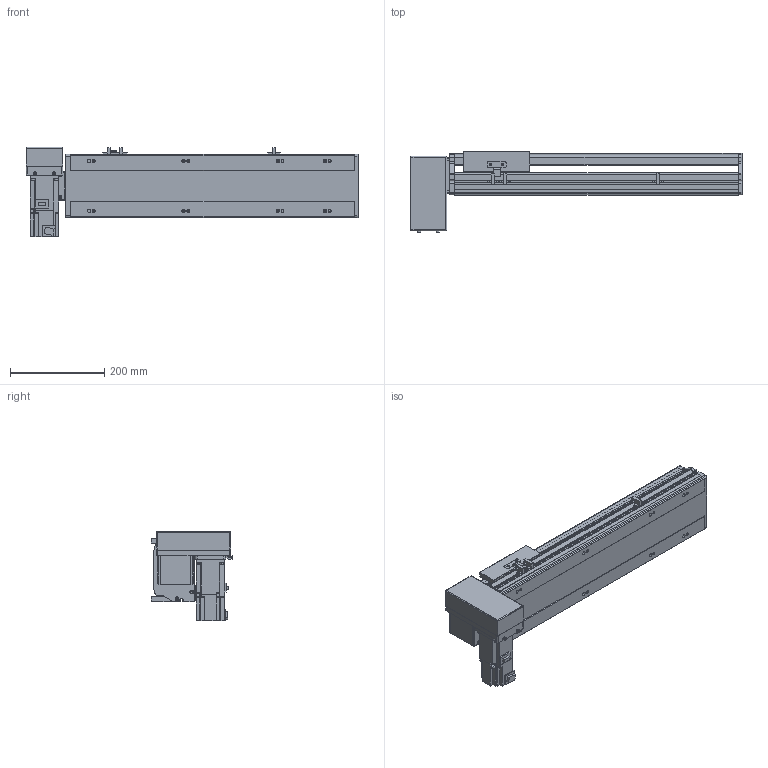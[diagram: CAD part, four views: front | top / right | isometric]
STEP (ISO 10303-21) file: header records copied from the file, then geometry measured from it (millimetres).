
FILE_DESCRIPTION( ( 'STEP AP214' ), '1' );
FILE_NAME( 'x:/temp/worker_6/temp/exporttempdir_5396_164_tpQrA/format_0/PBS140S-P40-S350-RD-T40-C1-N(0).stp', '2022-06-09T00:42:00', ( 'License CC BY-ND 4.0' ), ( 'CADENAS' ), ' ', 'PARTsolutions', ' ' );
FILE_SCHEMA( ( 'AUTOMOTIVE_DESIGN { 1 0 10303 214 1 1 1 1 }' ) );
Length unit declared in the file: millimetre
Products named in the file (7): PBS140S-P40-S350-RD-T40-C1-N(0); _PBS140S-S350()_body; _PBS140ST-RD_motors; _T40-p1; _PBS140S_sliser; _PBS140S_plant; _PBS140S_sensor
Assembly tree (8 placements, depth 2):
  PBS140S-P40-S350-RD-T40-C1-N(0)
    _PBS140S-S350()_body
    _PBS140ST-RD_motors
    _T40-p1
    _PBS140S_sliser
    _PBS140S_plant
    _PBS140S_sensor  x3
Bounding box: 704 x 172.5 x 189.7 mm (x, y, z)
Volume: 4079032.2 mm3; surface area: 734950.2 mm2
Topology: 8 solids, 8 shells, 1035 faces, 2751 edges, 1801 vertices
Faces by surface type: plane 678, cylinder 313, cone 34, sphere 8, torus 2
Full cylindrical faces by diameter (mm): 3.242 x4, 4 x2, 4.134 x4, 4.4 x8, 4.5 x2, 4.8 x4, 4.917 x16, 5.5 x7, 6 x2, 7 x10, 7.5 x8, 8 x12, 8.5 x4, 10.5 x8, 14 x1, 30 x2, 50 x2
Entity records: 37768 total; most frequent: CARTESIAN_POINT 5734, DIRECTION 5068, ORIENTED_EDGE 4822, EDGE_CURVE 2411, AXIS2_PLACEMENT_3D 1739, VERTEX_POINT 1657, LINE 1590, VECTOR 1590
